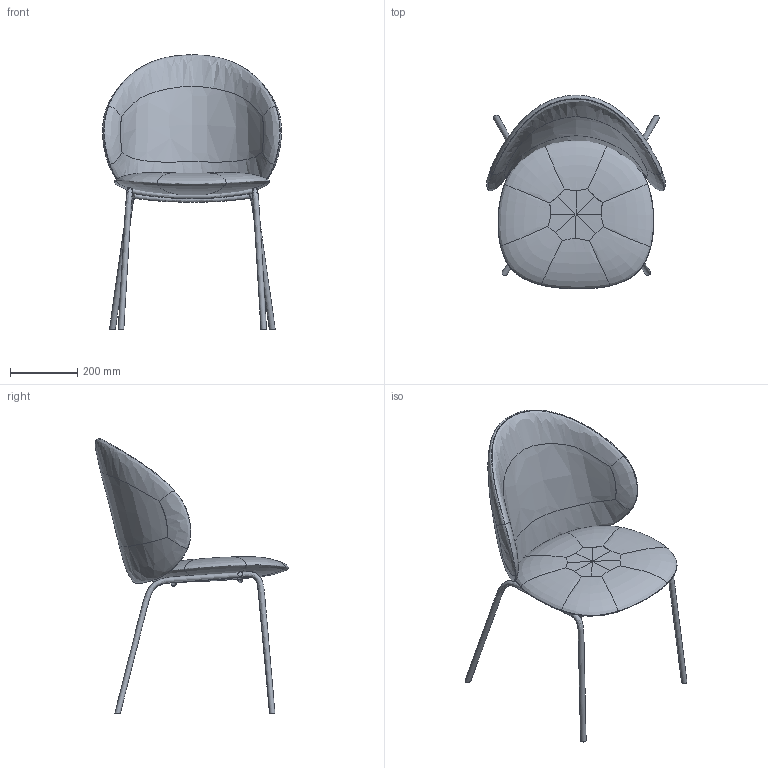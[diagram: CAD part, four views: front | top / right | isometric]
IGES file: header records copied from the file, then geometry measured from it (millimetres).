
Start section:  Autodesk Maya version 2019 IGES version 5.3  Autodesk Maya version 2019 IGES version 5.3
Global section: file name: C:\Users\Workstation2\Desktop\CHAIR_4_LEGS.igs; native system: Rhinoceros ( Mar 28 2013 ); preprocessor: Trout Lake IGES 012 Mar 28 2013; date: 200225.104757; units: millimetre
Bounding box: 533.04 x 577.96 x 818.73 mm (x, y, z)
Surface area: 1042670.4 mm2 (no closed solid volume)
Topology: 0 solids, 0 shells, 34 faces, 132 edges, 128 vertices
Faces by surface type: bspline 34
